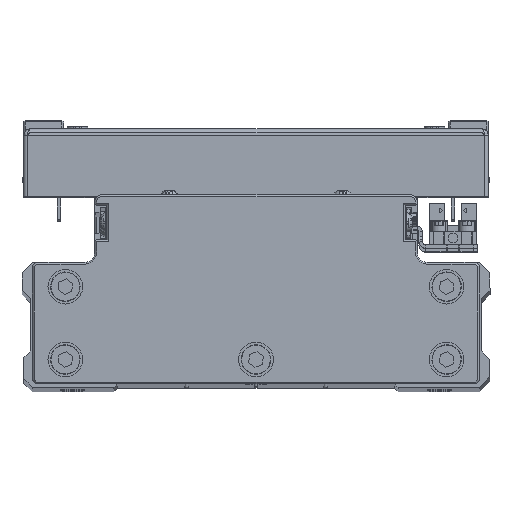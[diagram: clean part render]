
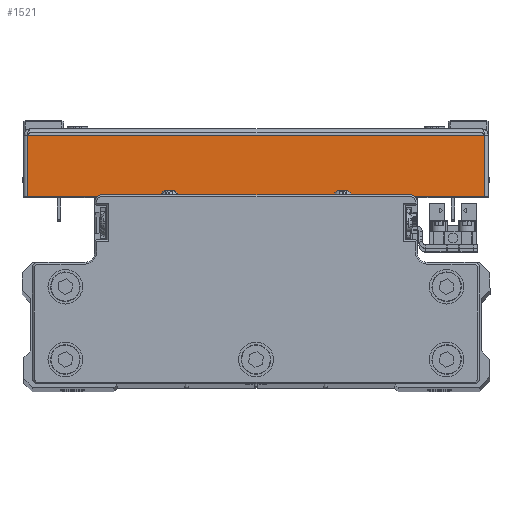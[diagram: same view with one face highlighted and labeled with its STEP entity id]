
A CAD part, top view. The second image highlights one B-rep face of the part: STEP entity #1521.
In plain terms, the highlighted planar face has unit normal (0, 0, 1) as drawn and (1, 0, 0) by its records, which use the part's own axes.
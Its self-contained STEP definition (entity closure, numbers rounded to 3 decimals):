
#222 = CARTESIAN_POINT ( 'NONE',  ( 100., 1., -65.929 ) ) ;
#431 = AXIS2_PLACEMENT_3D ( 'NONE', #26450, #40171, #9353 ) ;
#890 = CARTESIAN_POINT ( 'NONE',  ( 100., 18.5, 65.929 ) ) ;
#1521 = ADVANCED_FACE ( 'NONE', ( #43548 ), #12727, .F. ) ;
#3583 = LINE ( 'NONE', #17317, #12784 ) ;
#3980 = LINE ( 'NONE', #17695, #20883 ) ;
#6321 = DIRECTION ( 'NONE',  ( 0., 1., 0. ) ) ;
#6322 = CARTESIAN_POINT ( 'NONE',  ( 100., 1., 67. ) ) ;
#6792 = EDGE_LOOP ( 'NONE', ( #15817, #30376, #21847, #24274 ) ) ;
#9353 = DIRECTION ( 'NONE',  ( 0., -1., 0. ) ) ;
#11179 = CARTESIAN_POINT ( 'NONE',  ( 100., 1., 65.929 ) ) ;
#11361 = VECTOR ( 'NONE', #6321, 1000. ) ;
#12727 = PLANE ( 'NONE',  #431 ) ;
#12784 = VECTOR ( 'NONE', #31040, 1000. ) ;
#15337 = EDGE_CURVE ( 'NONE', #35445, #30964, #3583, .T. ) ;
#15817 = ORIENTED_EDGE ( 'NONE', *, *, #26763, .F. ) ;
#17317 = CARTESIAN_POINT ( 'NONE',  ( 100., 18.5, 0. ) ) ;
#17695 = CARTESIAN_POINT ( 'NONE',  ( 100., 0., -65.929 ) ) ;
#20038 = DIRECTION ( 'NONE',  ( 0., 0., 1. ) ) ;
#20883 = VECTOR ( 'NONE', #31429, 1000. ) ;
#21847 = ORIENTED_EDGE ( 'NONE', *, *, #15337, .T. ) ;
#23117 = EDGE_CURVE ( 'NONE', #42640, #35445, #3980, .T. ) ;
#23414 = LINE ( 'NONE', #37142, #11361 ) ;
#24274 = ORIENTED_EDGE ( 'NONE', *, *, #40180, .F. ) ;
#25102 = CARTESIAN_POINT ( 'NONE',  ( 100., 18.5, -65.929 ) ) ;
#26450 = CARTESIAN_POINT ( 'NONE',  ( 100., 0., 0. ) ) ;
#26763 = EDGE_CURVE ( 'NONE', #42640, #39040, #37144, .T. ) ;
#30376 = ORIENTED_EDGE ( 'NONE', *, *, #23117, .T. ) ;
#30964 = VERTEX_POINT ( 'NONE', #890 ) ;
#31040 = DIRECTION ( 'NONE',  ( 0., 0., 1. ) ) ;
#31429 = DIRECTION ( 'NONE',  ( 0., 1., 0. ) ) ;
#33604 = VECTOR ( 'NONE', #20038, 1000. ) ;
#35445 = VERTEX_POINT ( 'NONE', #25102 ) ;
#37142 = CARTESIAN_POINT ( 'NONE',  ( 100., 0., 65.929 ) ) ;
#37144 = LINE ( 'NONE', #6322, #33604 ) ;
#39040 = VERTEX_POINT ( 'NONE', #11179 ) ;
#40171 = DIRECTION ( 'NONE',  ( -1., 0., 0. ) ) ;
#40180 = EDGE_CURVE ( 'NONE', #39040, #30964, #23414, .T. ) ;
#42640 = VERTEX_POINT ( 'NONE', #222 ) ;
#43548 = FACE_OUTER_BOUND ( 'NONE', #6792, .T. ) ;
